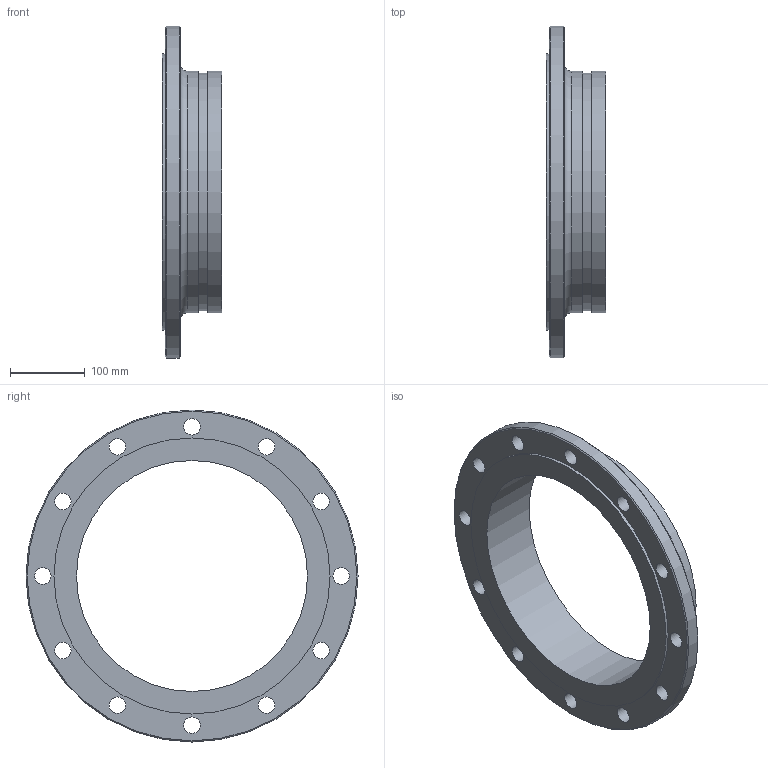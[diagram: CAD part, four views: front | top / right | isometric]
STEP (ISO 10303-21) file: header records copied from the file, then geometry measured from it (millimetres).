
FILE_DESCRIPTION(/* description */ ('VIC FLG ADPTR NIP PN10 RF No 45RE (OGSxFLG)'),/* implementation_level */ '2;1');
FILE_NAME(/* name */ 'C:\Users\vjadhav\OneDrive - Victaulic Company\Desktop\New folder\Victaulic_IPS_Flgd Adptr Nip_PN10 RF_No 45RE (OGSxFLG)\Victaulic_IPS_Flgd Adptr Nip_PN10 RF_No 45RE (OGSxFLG)_12 (300).stp',/* time_stamp */ '2024-04-01T13:02:41+02:00',/* author */ ('jheald'),/* organization */ ('Victaulic'),/* preprocessor_version */ 'ST-DEVELOPER v18.1',/* originating_system */ 'Autodesk Inventor 2020',/* authorisation */ '');
FILE_SCHEMA (('AUTOMOTIVE_DESIGN { 1 0 10303 214 3 1 1 }'));
Length unit declared in the file: inch
Products named in the file (1): 045RE-12.0
Bounding box: 80.01 x 445.01 x 445.01 mm (x, y, z)
Volume: 2047731.2 mm3; surface area: 334441.5 mm2
Topology: 1 solids, 1 shells, 27 faces, 74 edges, 53 vertices
Faces by surface type: cylinder 18, plane 6, cone 2, torus 1
Full cylindrical faces by diameter (mm): 22.098 x12, 309.626 x1, 318.287 x1, 323.85 x2, 370.002 x1, 445.008 x1
Entity records: 1032 total; most frequent: DIRECTION 184, CARTESIAN_POINT 155, ORIENTED_EDGE 148, AXIS2_PLACEMENT_3D 82, EDGE_CURVE 74, EDGE_LOOP 57, CIRCLE 54, VERTEX_POINT 53
